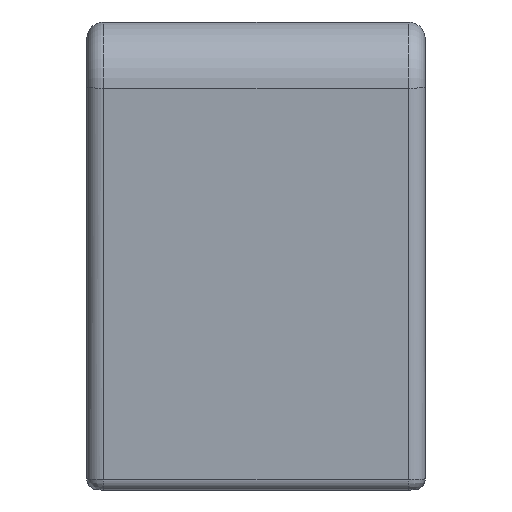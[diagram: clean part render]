
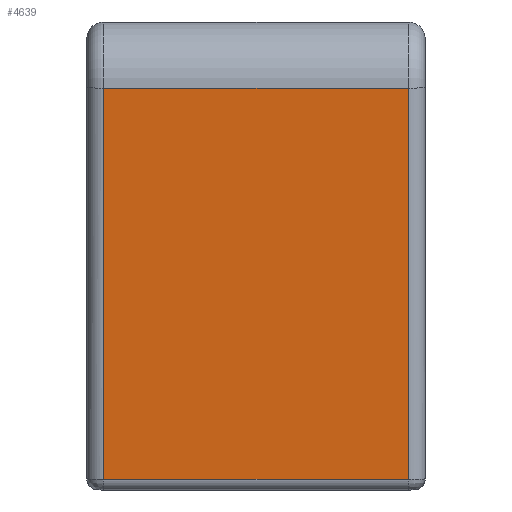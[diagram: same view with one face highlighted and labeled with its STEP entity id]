
A CAD part, left-side view. The second image highlights one B-rep face of the part: STEP entity #4639.
In plain terms, the highlighted planar face has unit normal (-0.998, 0, -0.067).
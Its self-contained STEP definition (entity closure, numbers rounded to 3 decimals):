
#270 = EDGE_CURVE ( 'NONE', #3926, #3918, #495, .T. ) ;
#271 = EDGE_CURVE ( 'NONE', #3918, #3931, #516, .T. ) ;
#272 = EDGE_CURVE ( 'NONE', #3931, #3924, #514, .T. ) ;
#273 = EDGE_CURVE ( 'NONE', #3926, #3924, #512, .T. ) ;
#495 = LINE ( 'NONE', #4443, #507 ) ;
#507 = VECTOR ( 'NONE', #4444, 1000. ) ;
#511 = VECTOR ( 'NONE', #4450, 1000. ) ;
#512 = LINE ( 'NONE', #4449, #511 ) ;
#513 = VECTOR ( 'NONE', #4448, 1000. ) ;
#514 = LINE ( 'NONE', #4447, #513 ) ;
#515 = VECTOR ( 'NONE', #4446, 1000. ) ;
#516 = LINE ( 'NONE', #4445, #515 ) ;
#1178 = ORIENTED_EDGE ( 'NONE', *, *, #270, .T. ) ;
#1179 = ORIENTED_EDGE ( 'NONE', *, *, #271, .T. ) ;
#1180 = ORIENTED_EDGE ( 'NONE', *, *, #272, .T. ) ;
#1181 = ORIENTED_EDGE ( 'NONE', *, *, #273, .F. ) ;
#1442 = EDGE_LOOP ( 'NONE', ( #1178, #1179, #1180, #1181 ) ) ;
#1586 = AXIS2_PLACEMENT_3D ( 'NONE', #2636, #2637, #2638 ) ;
#1805 = FACE_OUTER_BOUND ( 'NONE', #1442, .T. ) ;
#2635 = PLANE ( 'NONE',  #1586 ) ;
#2636 = CARTESIAN_POINT ( 'NONE',  ( -143., 15., -7. ) ) ;
#2637 = DIRECTION ( 'NONE',  ( -0.998, 0., -0.067 ) ) ;
#2638 = DIRECTION ( 'NONE',  ( -0.067, 0., 0.998 ) ) ;
#3918 = VERTEX_POINT ( 'NONE', #5081 ) ;
#3924 = VERTEX_POINT ( 'NONE', #5087 ) ;
#3926 = VERTEX_POINT ( 'NONE', #5089 ) ;
#3931 = VERTEX_POINT ( 'NONE', #5094 ) ;
#4443 = CARTESIAN_POINT ( 'NONE',  ( -143., 13.5, -7. ) ) ;
#4444 = DIRECTION ( 'NONE',  ( 0.067, 0., -0.998 ) ) ;
#4445 = CARTESIAN_POINT ( 'NONE',  ( -143.063, 15., -6.067 ) ) ;
#4446 = DIRECTION ( 'NONE',  ( 0., -1., 0. ) ) ;
#4447 = CARTESIAN_POINT ( 'NONE',  ( -145.388, -13.5, 28.632 ) ) ;
#4448 = DIRECTION ( 'NONE',  ( -0.067, 0., 0.998 ) ) ;
#4449 = CARTESIAN_POINT ( 'NONE',  ( -145.388, 15., 28.632 ) ) ;
#4450 = DIRECTION ( 'NONE',  ( 0., -1., 0. ) ) ;
#4639 = ADVANCED_FACE ( 'NONE', ( #1805 ), #2635, .T. ) ;
#5081 = CARTESIAN_POINT ( 'NONE',  ( -143.063, 13.5, -6.067 ) ) ;
#5087 = CARTESIAN_POINT ( 'NONE',  ( -145.388, -13.5, 28.632 ) ) ;
#5089 = CARTESIAN_POINT ( 'NONE',  ( -145.388, 13.5, 28.632 ) ) ;
#5094 = CARTESIAN_POINT ( 'NONE',  ( -143.063, -13.5, -6.067 ) ) ;
